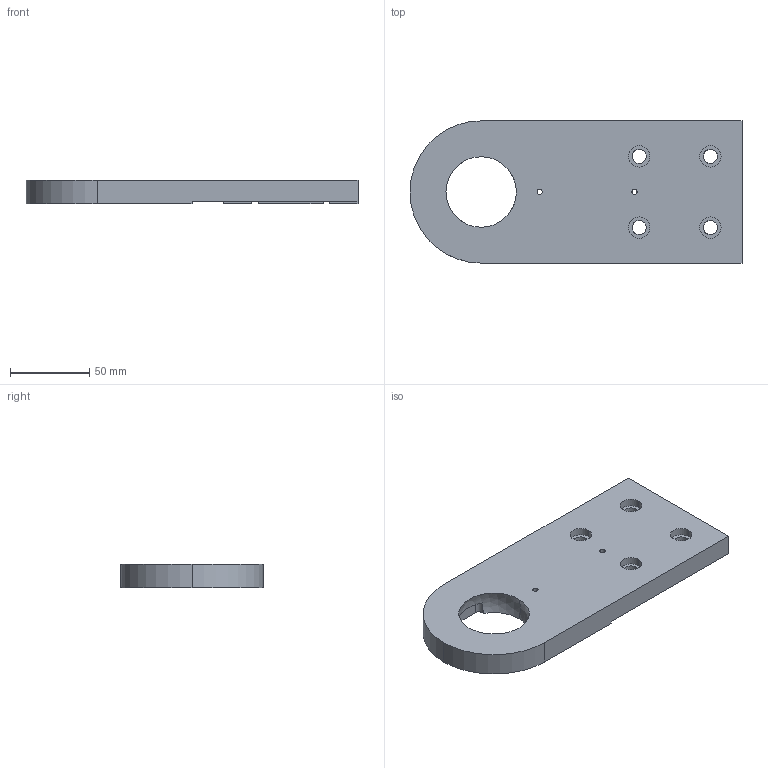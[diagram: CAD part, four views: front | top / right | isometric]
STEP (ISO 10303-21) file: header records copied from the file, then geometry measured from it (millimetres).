
FILE_DESCRIPTION (( 'STEP AP203' ), '1' );
FILE_NAME ('084.808.006.STEP', '2013-01-29T13:55:31', ( 'Alusic' ), ( 'Alusic' ), 'SwSTEP 2.0', 'SolidWorks 2011', '' );
FILE_SCHEMA (( 'CONFIG_CONTROL_DESIGN' ));
Length unit declared in the file: millimetre
Products named in the file (1): 084.808.006
Bounding box: 210 x 90 x 15 mm (x, y, z)
Volume: 227066.4 mm3; surface area: 45447.1 mm2
Topology: 1 solids, 1 shells, 67 faces, 199 edges, 132 vertices
Faces by surface type: plane 39, cylinder 26, sphere 2
Entity records: 2360 total; most frequent: DIRECTION 409, CARTESIAN_POINT 405, ORIENTED_EDGE 390, EDGE_CURVE 195, AXIS2_PLACEMENT_3D 150, VERTEX_POINT 130, LINE 109, VECTOR 109
